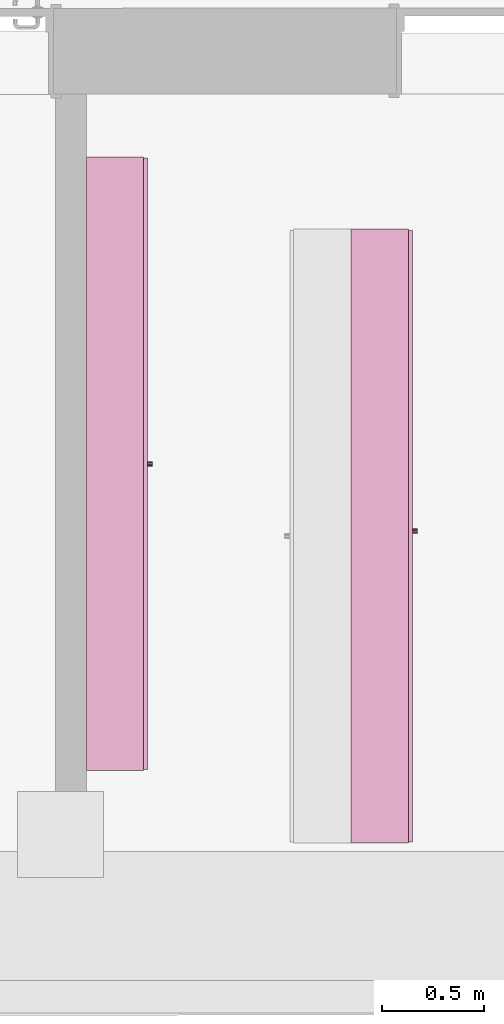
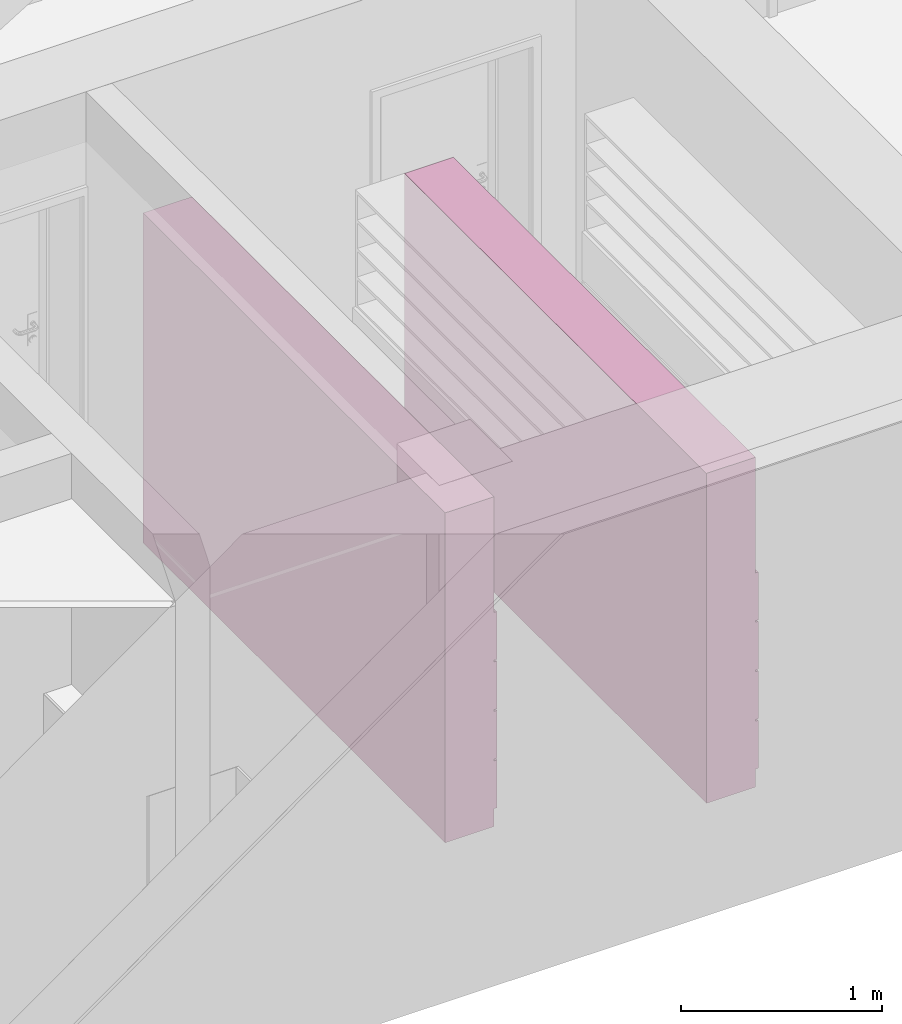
# One storey, part 100 of 127: 2 furnishings.
"""IFC2X3 building model written with IfcOpenShell, lengths in millimetres."""

import ifcopenshell
import ifcopenshell.guid

model = None  # the IFC model being written
_history = None  # IfcOwnerHistory: only IFC2X3 demands one
_inside = {}  # id of a spatial element -> (the spatial element, [elements in it])
_under = {}  # id of a project, library or spatial element -> (it, [spatial elements below it])
_declared = {}  # id of a project -> (the project, [libraries it declares])
_typed = {}  # id of a type object -> (the type object, [elements of that type])
_made_of = {}  # id of a material, layer set ... -> (it, [elements and type objects made of it])


def new_model(schema):
    """Start an empty IFC model of exactly this schema.

    Asked for "IFC4X3", IfcOpenShell would pick the latest addendum, in which some entities
    have other attributes; the version numbers below select the first issue.
    IFC2X3 requires an IfcOwnerHistory on every rooted entity: one is made here for all.
    """
    global model, _history
    if schema == "IFC4X3":
        model = ifcopenshell.file(schema_version=(4, 3, 0, 0))
    else:
        model = ifcopenshell.file(schema=schema)
    _inside.clear()
    _under.clear()
    _declared.clear()
    _typed.clear()
    _made_of.clear()
    _history = None
    if model.schema == "IFC2X3":
        org = make("IfcOrganization", Name="unknown")
        user = make(
            "IfcPersonAndOrganization",
            ThePerson=make("IfcPerson", FamilyName="unknown"),
            TheOrganization=org,
        )
        app = make(
            "IfcApplication",
            ApplicationDeveloper=org,
            Version="unknown",
            ApplicationFullName="unknown",
            ApplicationIdentifier="unknown",
        )
        _history = make(
            "IfcOwnerHistory",
            OwningUser=user,
            OwningApplication=app,
            ChangeAction="ADDED",
            CreationDate=0,
        )
    return model


def make(cls, **values):
    """One entity of the class cls with the attributes given. An attribute that is None is left unset."""
    return model.create_entity(
        cls, **{name: value for name, value in values.items() if value is not None}
    )


def entity(cls, *values):
    """Any entity or typed value of the class cls, its attributes in the order of the schema. None: left unset."""
    e = model.create_entity(cls)
    for i, value in enumerate(values):
        if value is not None:
            e[i] = value
    return e


def rooted(cls, **values):
    """An entity with a GlobalId (a new one), such as an element, a storey or a relation."""
    return make(cls, GlobalId=ifcopenshell.guid.new(), OwnerHistory=_history, **values)


def si_unit(unit_type, name, prefix=None):
    """IfcSIUnit, for example si_unit("LENGTHUNIT", "METRE", prefix="MILLI")."""
    return make("IfcSIUnit", UnitType=unit_type, Prefix=prefix, Name=name)


def converted_unit(unit_type, name, factor, base, dimensions=None, offset=None):
    """IfcConversionBasedUnit, such as the inch: factor (a typed value) times the base unit."""
    return make(
        "IfcConversionBasedUnit"
        if offset is None
        else "IfcConversionBasedUnitWithOffset",
        ConversionOffset=offset,
        Dimensions=None
        if dimensions is None
        else entity("IfcDimensionalExponents", *dimensions),
        UnitType=unit_type,
        Name=name,
        ConversionFactor=make(
            "IfcMeasureWithUnit", ValueComponent=factor, UnitComponent=base
        ),
    )


def derived_unit(unit_type, elements):
    """IfcDerivedUnit: a product of units, each with its exponent."""
    return make(
        "IfcDerivedUnit",
        Elements=[
            make("IfcDerivedUnitElement", Unit=unit, Exponent=power)
            for unit, power in elements
        ],
        UnitType=unit_type,
    )


def money_unit(currency):
    """IfcMonetaryUnit."""
    return make("IfcMonetaryUnit", Currency=currency)


def assignment(units):
    """IfcUnitAssignment: the units of a project."""
    return None if units is None else make("IfcUnitAssignment", Units=units)


def point(xyz):
    """IfcCartesianPoint."""
    return None if xyz is None else make("IfcCartesianPoint", Coordinates=xyz)


def direction(xyz):
    """IfcDirection."""
    return None if xyz is None else make("IfcDirection", DirectionRatios=xyz)


def frame(location, z_axis=None, x_axis=None):
    """IfcAxis2Placement3D, a coordinate frame: its origin and axes. An axis left out is left unset."""
    return make(
        "IfcAxis2Placement3D",
        Location=point(location),
        Axis=direction(z_axis),
        RefDirection=direction(x_axis),
    )


def origin_with_axes():
    """The frame at (0, 0, 0) with the z axis (0, 0, 1) and the x axis (1, 0, 0) written out."""
    return frame((0.0, 0.0, 0.0), z_axis=(0.0, 0.0, 1.0), x_axis=(1.0, 0.0, 0.0))


def place(relative_to, where):
    """IfcLocalPlacement: puts the frame where relative to a parent placement (None: the world)."""
    return make(
        "IfcLocalPlacement", PlacementRelTo=relative_to, RelativePlacement=where
    )


def context(
    kind, dimensions, precision=None, world=None, true_north=None, identifier=None
):
    """IfcGeometricRepresentationContext, for example the 3D "Model" context."""
    return make(
        "IfcGeometricRepresentationContext",
        ContextIdentifier=identifier,
        ContextType=kind,
        CoordinateSpaceDimension=dimensions,
        Precision=precision,
        WorldCoordinateSystem=world,
        TrueNorth=true_north,
    )


def subcontext(parent, identifier, kind, view, scale=None):
    """IfcGeometricRepresentationSubContext, for example "Body" below "Model"."""
    return make(
        "IfcGeometricRepresentationSubContext",
        ContextIdentifier=identifier,
        ContextType=kind,
        ParentContext=parent,
        TargetScale=scale,
        TargetView=view,
    )


def project(units=None, contexts=None):
    """IfcProject with its units and contexts."""
    return rooted(
        "IfcProject",
        Name="project",
        RepresentationContexts=contexts,
        UnitsInContext=assignment(units),
    )


def spatial(cls, under=None, at=None, **own):
    """A site, building, storey or space (cls), placed at a placement, below another one or the project."""
    s = rooted(cls, ObjectPlacement=at, **own)
    if under is not None:
        _under.setdefault(under.id(), (under, []))[1].append(s)
    return s


def faces_of(points, faces, orient=None, outer=None):
    """IfcFace entities. A face is a list of loops; a loop is a list of indices into points, from 0.

    orient and outer hold one flag for each loop. By default every Orientation is true, the
    first loop of a face is its IfcFaceOuterBound and the others are IfcFaceBound.
    """
    made = []
    for i, loops in enumerate(faces):
        bounds = []
        for j, loop in enumerate(loops):
            is_outer = j == 0 if outer is None else outer[i][j]
            bounds.append(
                make(
                    "IfcFaceOuterBound" if is_outer else "IfcFaceBound",
                    Bound=make("IfcPolyLoop", Polygon=[points[k] for k in loop]),
                    Orientation=True if orient is None else orient[i][j],
                )
            )
        made.append(make("IfcFace", Bounds=bounds))
    return made


def faceted_brep(points, faces, orient=None, outer=None, voids=None):
    """IfcFacetedBrep: a solid bounded by flat faces; with voids (closed shells), ...WithVoids."""
    shared = [point(p) for p in points]
    hull = make("IfcClosedShell", CfsFaces=faces_of(shared, faces, orient, outer))
    if voids is None:
        return make("IfcFacetedBrep", Outer=hull)
    return make(
        "IfcFacetedBrepWithVoids",
        Outer=hull,
        Voids=[
            make(cls, CfsFaces=faces_of(shared, fs, o, b)) for cls, fs, o, b in voids
        ],
    )


def shape(context_of_items, identifier, shape_type, items):
    """IfcShapeRepresentation: the items that make up one representation, for example the "Body"."""
    return make(
        "IfcShapeRepresentation",
        ContextOfItems=context_of_items,
        RepresentationIdentifier=identifier,
        RepresentationType=shape_type,
        Items=items,
    )


def made_of(thing, what):
    """Note that an element or type object is made of a material, layer set ...; save() writes the relation."""
    if what is not None:
        _made_of.setdefault(what.id(), (what, []))[1].append(thing)
    return thing


def type_object(cls, material=None, **own):
    """A type object (cls), such as IfcWallType, which elements share."""
    return made_of(rooted(cls, **own), material)


def element(
    cls,
    number,
    at=None,
    inside=None,
    cuts=None,
    type_object=None,
    material=None,
    context=None,
    identifier="Body",
    shape_type=None,
    held_by="IfcProductDefinitionShape",
    body=None,
    shapes=None,
    **own,
):
    """One element of the class cls, such as IfcWall. Its Tag is "e" and its number.

    at: its placement. inside: the storey or other place that contains it. cuts: it is an
    opening in that element (IfcRelVoidsElement). A single representation is given by context,
    identifier, shape_type and body (its items); several are given by shapes. held_by: the class
    of the entity that holds the representations. save() writes the other relations.
    """
    e = rooted(cls, Tag="e%d" % number, ObjectPlacement=at, **own)
    if body is not None:
        shapes = [shape(context, identifier, shape_type, body)]
    if shapes is not None:
        e.Representation = make(held_by, Representations=shapes)
    if inside is not None:
        _inside.setdefault(inside.id(), (inside, []))[1].append(e)
    if cuts is not None:
        rooted(
            "IfcRelVoidsElement", RelatingBuildingElement=cuts, RelatedOpeningElement=e
        )
    if type_object is not None:
        _typed.setdefault(type_object.id(), (type_object, []))[1].append(e)
    return made_of(e, material)


def aggregate(whole, parts):
    """IfcRelAggregates: a whole, such as a stair, and the parts it consists of."""
    return rooted("IfcRelAggregates", RelatingObject=whole, RelatedObjects=parts)


def save(model, path):
    """Write the relations noted so far, then the file.

    IfcRelAggregates (storeys below a building ...), IfcRelContainedInSpatialStructure (elements
    in a storey), IfcRelDefinesByType, IfcRelAssociatesMaterial and IfcRelDeclares: one each for
    every whole, place, type object, material and project.
    """
    for whole, parts in _under.values():
        aggregate(whole, parts)
    for where, things in _inside.values():
        rooted(
            "IfcRelContainedInSpatialStructure",
            RelatedElements=things,
            RelatingStructure=where,
        )
    for kind, things in _typed.values():
        rooted("IfcRelDefinesByType", RelatedObjects=things, RelatingType=kind)
    for what, things in _made_of.values():
        rooted("IfcRelAssociatesMaterial", RelatedObjects=things, RelatingMaterial=what)
    for by, libraries in _declared.values():
        rooted("IfcRelDeclares", RelatingContext=by, RelatedDefinitions=libraries)
    model.write(path)


model = new_model("IFC2X3")

# Units and contexts
model_context = context("Model", 3, precision=1e-05, world=origin_with_axes(), true_north=direction((0.0, 1.0)))
body_context = subcontext(model_context, "Body", "Model", "MODEL_VIEW")
ifc_project = project(units=[si_unit("LENGTHUNIT", "METRE", prefix="MILLI"), si_unit("AREAUNIT", "SQUARE_METRE"), si_unit("VOLUMEUNIT", "CUBIC_METRE"), converted_unit("PLANEANGLEUNIT", "DEGREE", entity("IfcPlaneAngleMeasure", 0.0174532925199), si_unit("PLANEANGLEUNIT", "RADIAN"), dimensions=[0, 0, 0, 0, 0, 0, 0]), si_unit("SOLIDANGLEUNIT", "STERADIAN"), money_unit("EUR"), converted_unit("TIMEUNIT", "Year", entity("IfcTimeMeasure", 31556926.0), si_unit("TIMEUNIT", "SECOND"), dimensions=[0, 0, 1, 0, 0, 0, 0]), si_unit("MASSUNIT", "GRAM", prefix="KILO"), si_unit("THERMODYNAMICTEMPERATUREUNIT", "DEGREE_CELSIUS"), si_unit("LUMINOUSINTENSITYUNIT", "LUMEN"), si_unit("ENERGYUNIT", "JOULE", prefix="MEGA"), derived_unit("THERMALCONDUCTANCEUNIT", [(si_unit("POWERUNIT", "WATT"), 1), (si_unit("LENGTHUNIT", "METRE"), -1), (si_unit("THERMODYNAMICTEMPERATUREUNIT", "KELVIN"), -1)]), derived_unit("SPECIFICHEATCAPACITYUNIT", [(si_unit("ENERGYUNIT", "JOULE"), 1), (si_unit("MASSUNIT", "GRAM", prefix="KILO"), -1), (si_unit("THERMODYNAMICTEMPERATUREUNIT", "KELVIN"), -1)]), derived_unit("MASSDENSITYUNIT", [(si_unit("MASSUNIT", "GRAM", prefix="KILO"), 1), (si_unit("VOLUMEUNIT", "CUBIC_METRE"), -1)])], contexts=[model_context])

# Site, building, storey
site_placement = place(None, origin_with_axes())
site = spatial("IfcSite", under=ifc_project, at=site_placement, Name="Site", CompositionType="ELEMENT")
building_placement = place(site_placement, origin_with_axes())
building = spatial("IfcBuilding", under=site, at=building_placement, Name="Building", CompositionType="ELEMENT")
storey_placement = place(building_placement, origin_with_axes())
storey = spatial("IfcBuildingStorey", under=building, at=storey_placement, Name="1 KORRUS", CompositionType="ELEMENT", Elevation=0.0)

# Furnishings
furnishing_element_type_1 = type_object("IfcFurnishingElementType", Name="Model Element 26")
furnishing_1_placement = place(storey_placement, frame((29665.5369183, 37930.7778883, 0.0), z_axis=(0.0, 0.0, 1.0), x_axis=(0.0, 1.0, 0.0)))
element("IfcFurnishingElement", 1, at=furnishing_1_placement, inside=storey, type_object=furnishing_element_type_1, Name="FU - 003", context=body_context, shape_type="Brep", body=[
    faceted_brep([(-3000.23609579, 19.0, 0.0), (-3000.23609579, 300.0, 0.0), (0.0, 300.0, 0.0), (0.0, 19.0, 0.0), (-3000.23609579, 19.0, 100.0), (-3000.23609579, 300.0, 100.0), (0.0, 300.0, 100.0), (0.0, 19.0, 100.0)], [[[0, 1, 2, 3]], [[0, 4, 5, 1]], [[1, 5, 6, 2]], [[2, 6, 7, 3]], [[3, 7, 4, 0]], [[7, 6, 5, 4]]]),
    faceted_brep([(-19.0, 300.0, 119.0), (-19.0, 300.0, 1981.0), (-19.0, 281.0, 1981.0), (-19.0, 281.0, 119.0), (-2981.23609579, 300.0, 119.0), (-2981.23609579, 300.0, 1981.0), (-2981.23609579, 281.0, 1981.0), (-2981.23609579, 281.0, 119.0)], [[[0, 1, 2, 3]], [[4, 5, 1, 0]], [[1, 5, 6, 2]], [[3, 2, 6, 7]], [[0, 3, 7, 4]], [[7, 6, 5, 4]]]),
    faceted_brep([(-3000.23609579, 19.0, 100.0), (-3000.23609579, 300.0, 100.0), (-2981.23609579, 300.0, 100.0), (-2981.23609579, 19.0, 100.0), (-3000.23609579, 19.0, 2000.0), (-3000.23609579, 300.0, 2000.0), (-2981.23609579, 300.0, 2000.0), (-2981.23609579, 19.0, 2000.0)], [[[0, 1, 2, 3]], [[0, 4, 5, 1]], [[1, 5, 6, 2]], [[2, 6, 7, 3]], [[3, 7, 4, 0]], [[7, 6, 5, 4]]]),
    faceted_brep([(-19.0, 19.0, 100.0), (-19.0, 300.0, 100.0), (0.0, 300.0, 100.0), (0.0, 19.0, 100.0), (-19.0, 19.0, 2000.0), (-19.0, 300.0, 2000.0), (0.0, 300.0, 2000.0), (0.0, 19.0, 2000.0)], [[[0, 1, 2, 3]], [[0, 4, 5, 1]], [[1, 5, 6, 2]], [[2, 6, 7, 3]], [[3, 7, 4, 0]], [[7, 6, 5, 4]]]),
    faceted_brep([(-2981.23609579, 19.0, 100.0), (-2981.23609579, 300.0, 100.0), (-19.0, 300.0, 100.0), (-19.0, 19.0, 100.0), (-2981.23609579, 19.0, 119.0), (-2981.23609579, 300.0, 119.0), (-19.0, 300.0, 119.0), (-19.0, 19.0, 119.0)], [[[0, 1, 2, 3]], [[0, 4, 5, 1]], [[1, 5, 6, 2]], [[2, 6, 7, 3]], [[3, 7, 4, 0]], [[7, 6, 5, 4]]]),
    faceted_brep([(-2981.23609579, 19.0, 1981.0), (-2981.23609579, 300.0, 1981.0), (-19.0, 300.0, 1981.0), (-19.0, 19.0, 1981.0), (-2981.23609579, 19.0, 2000.0), (-2981.23609579, 300.0, 2000.0), (-19.0, 300.0, 2000.0), (-19.0, 19.0, 2000.0)], [[[0, 1, 2, 3]], [[0, 4, 5, 1]], [[1, 5, 6, 2]], [[2, 6, 7, 3]], [[3, 7, 4, 0]], [[7, 6, 5, 4]]]),
    faceted_brep([(-5.0, 19.0, 105.0), (-5.0, 0.0, 105.0), (-2995.23609579, 0.0, 105.0), (-2995.23609579, 19.0, 105.0), (-5.0, 19.0, 395.0), (-5.0, 0.0, 395.0), (-2995.23609579, 0.0, 395.0), (-2995.23609579, 19.0, 395.0)], [[[0, 1, 2, 3]], [[4, 5, 1, 0]], [[1, 5, 6, 2]], [[3, 2, 6, 7]], [[0, 3, 7, 4]], [[7, 6, 5, 4]]]),
    faceted_brep([(-1486.51035274, 0.0, 244.0), (-1488.11804789, 0.0, 250.0), (-1486.51035274, 0.0, 256.0), (-1482.11804789, 0.0, 260.392304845), (-1476.11804789, 0.0, 262.0), (-1470.11804789, 0.0, 260.392304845), (-1465.72574305, 0.0, 256.0), (-1464.11804789, 0.0, 250.0), (-1465.72574305, 0.0, 244.0), (-1470.11804789, 0.0, 239.607695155), (-1476.11804789, 0.0, 238.0), (-1482.11804789, 0.0, 239.607695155), (-1486.51035274, -25.0, 244.0), (-1488.11804789, -25.0, 250.0), (-1486.51035274, -25.0, 256.0), (-1482.11804789, -25.0, 260.392304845), (-1476.11804789, -25.0, 262.0), (-1470.11804789, -25.0, 260.392304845), (-1465.72574305, -25.0, 256.0), (-1464.11804789, -25.0, 250.0), (-1465.72574305, -25.0, 244.0), (-1470.11804789, -25.0, 239.607695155), (-1476.11804789, -25.0, 238.0), (-1482.11804789, -25.0, 239.607695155)], [[[0, 1, 2, 3, 4, 5, 6, 7, 8, 9, 10, 11]], [[0, 12, 13, 1]], [[1, 13, 14, 2]], [[2, 14, 15, 3]], [[3, 15, 16, 4]], [[4, 16, 17, 5]], [[5, 17, 18, 6]], [[6, 18, 19, 7]], [[7, 19, 20, 8]], [[8, 20, 21, 9]], [[9, 21, 22, 10]], [[10, 22, 23, 11]], [[11, 23, 12, 0]], [[12, 23, 22, 21, 20, 19, 18, 17, 16, 15, 14, 13]]]),
    faceted_brep([(-5.0, 19.0, 405.0), (-5.0, 0.0, 405.0), (-2995.23609579, 0.0, 405.0), (-2995.23609579, 19.0, 405.0), (-5.0, 19.0, 695.0), (-5.0, 0.0, 695.0), (-2995.23609579, 0.0, 695.0), (-2995.23609579, 19.0, 695.0)], [[[0, 1, 2, 3]], [[4, 5, 1, 0]], [[1, 5, 6, 2]], [[3, 2, 6, 7]], [[0, 3, 7, 4]], [[7, 6, 5, 4]]]),
    faceted_brep([(-1486.51035274, 0.0, 544.0), (-1488.11804789, 0.0, 550.0), (-1486.51035274, 0.0, 556.0), (-1482.11804789, 0.0, 560.392304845), (-1476.11804789, 0.0, 562.0), (-1470.11804789, 0.0, 560.392304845), (-1465.72574305, 0.0, 556.0), (-1464.11804789, 0.0, 550.0), (-1465.72574305, 0.0, 544.0), (-1470.11804789, 0.0, 539.607695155), (-1476.11804789, 0.0, 538.0), (-1482.11804789, 0.0, 539.607695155), (-1486.51035274, -25.0, 544.0), (-1488.11804789, -25.0, 550.0), (-1486.51035274, -25.0, 556.0), (-1482.11804789, -25.0, 560.392304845), (-1476.11804789, -25.0, 562.0), (-1470.11804789, -25.0, 560.392304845), (-1465.72574305, -25.0, 556.0), (-1464.11804789, -25.0, 550.0), (-1465.72574305, -25.0, 544.0), (-1470.11804789, -25.0, 539.607695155), (-1476.11804789, -25.0, 538.0), (-1482.11804789, -25.0, 539.607695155)], [[[0, 1, 2, 3, 4, 5, 6, 7, 8, 9, 10, 11]], [[0, 12, 13, 1]], [[1, 13, 14, 2]], [[2, 14, 15, 3]], [[3, 15, 16, 4]], [[4, 16, 17, 5]], [[5, 17, 18, 6]], [[6, 18, 19, 7]], [[7, 19, 20, 8]], [[8, 20, 21, 9]], [[9, 21, 22, 10]], [[10, 22, 23, 11]], [[11, 23, 12, 0]], [[12, 23, 22, 21, 20, 19, 18, 17, 16, 15, 14, 13]]]),
    faceted_brep([(-5.0, 19.0, 705.0), (-5.0, 0.0, 705.0), (-2995.23609579, 0.0, 705.0), (-2995.23609579, 19.0, 705.0), (-5.0, 19.0, 995.0), (-5.0, 0.0, 995.0), (-2995.23609579, 0.0, 995.0), (-2995.23609579, 19.0, 995.0)], [[[0, 1, 2, 3]], [[4, 5, 1, 0]], [[1, 5, 6, 2]], [[3, 2, 6, 7]], [[0, 3, 7, 4]], [[7, 6, 5, 4]]]),
    faceted_brep([(-1486.51035274, 0.0, 844.0), (-1488.11804789, 0.0, 850.0), (-1486.51035274, 0.0, 856.0), (-1482.11804789, 0.0, 860.392304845), (-1476.11804789, 0.0, 862.0), (-1470.11804789, 0.0, 860.392304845), (-1465.72574305, 0.0, 856.0), (-1464.11804789, 0.0, 850.0), (-1465.72574305, 0.0, 844.0), (-1470.11804789, 0.0, 839.607695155), (-1476.11804789, 0.0, 838.0), (-1482.11804789, 0.0, 839.607695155), (-1486.51035274, -25.0, 844.0), (-1488.11804789, -25.0, 850.0), (-1486.51035274, -25.0, 856.0), (-1482.11804789, -25.0, 860.392304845), (-1476.11804789, -25.0, 862.0), (-1470.11804789, -25.0, 860.392304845), (-1465.72574305, -25.0, 856.0), (-1464.11804789, -25.0, 850.0), (-1465.72574305, -25.0, 844.0), (-1470.11804789, -25.0, 839.607695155), (-1476.11804789, -25.0, 838.0), (-1482.11804789, -25.0, 839.607695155)], [[[0, 1, 2, 3, 4, 5, 6, 7, 8, 9, 10, 11]], [[0, 12, 13, 1]], [[1, 13, 14, 2]], [[2, 14, 15, 3]], [[3, 15, 16, 4]], [[4, 16, 17, 5]], [[5, 17, 18, 6]], [[6, 18, 19, 7]], [[7, 19, 20, 8]], [[8, 20, 21, 9]], [[9, 21, 22, 10]], [[10, 22, 23, 11]], [[11, 23, 12, 0]], [[12, 23, 22, 21, 20, 19, 18, 17, 16, 15, 14, 13]]]),
    faceted_brep([(-5.0, 19.0, 1005.0), (-5.0, 0.0, 1005.0), (-2995.23609579, 0.0, 1005.0), (-2995.23609579, 19.0, 1005.0), (-5.0, 19.0, 1295.0), (-5.0, 0.0, 1295.0), (-2995.23609579, 0.0, 1295.0), (-2995.23609579, 19.0, 1295.0)], [[[0, 1, 2, 3]], [[4, 5, 1, 0]], [[1, 5, 6, 2]], [[3, 2, 6, 7]], [[0, 3, 7, 4]], [[7, 6, 5, 4]]]),
    faceted_brep([(-1486.51035274, 0.0, 1144.0), (-1488.11804789, 0.0, 1150.0), (-1486.51035274, 0.0, 1156.0), (-1482.11804789, 0.0, 1160.39230485), (-1476.11804789, 0.0, 1162.0), (-1470.11804789, 0.0, 1160.39230485), (-1465.72574305, 0.0, 1156.0), (-1464.11804789, 0.0, 1150.0), (-1465.72574305, 0.0, 1144.0), (-1470.11804789, 0.0, 1139.60769515), (-1476.11804789, 0.0, 1138.0), (-1482.11804789, 0.0, 1139.60769515), (-1486.51035274, -25.0, 1144.0), (-1488.11804789, -25.0, 1150.0), (-1486.51035274, -25.0, 1156.0), (-1482.11804789, -25.0, 1160.39230485), (-1476.11804789, -25.0, 1162.0), (-1470.11804789, -25.0, 1160.39230485), (-1465.72574305, -25.0, 1156.0), (-1464.11804789, -25.0, 1150.0), (-1465.72574305, -25.0, 1144.0), (-1470.11804789, -25.0, 1139.60769515), (-1476.11804789, -25.0, 1138.0), (-1482.11804789, -25.0, 1139.60769515)], [[[0, 1, 2, 3, 4, 5, 6, 7, 8, 9, 10, 11]], [[0, 12, 13, 1]], [[1, 13, 14, 2]], [[2, 14, 15, 3]], [[3, 15, 16, 4]], [[4, 16, 17, 5]], [[5, 17, 18, 6]], [[6, 18, 19, 7]], [[7, 19, 20, 8]], [[8, 20, 21, 9]], [[9, 21, 22, 10]], [[10, 22, 23, 11]], [[11, 23, 12, 0]], [[12, 23, 22, 21, 20, 19, 18, 17, 16, 15, 14, 13]]]),
    faceted_brep([(-19.0, 19.0, 390.5), (-19.0, 19.0, 409.5), (-2981.23609579, 19.0, 409.5), (-2981.23609579, 19.0, 390.5), (-19.0, 281.0, 390.5), (-19.0, 281.0, 409.5), (-2981.23609579, 281.0, 409.5), (-2981.23609579, 281.0, 390.5)], [[[0, 1, 2, 3]], [[4, 5, 1, 0]], [[1, 5, 6, 2]], [[3, 2, 6, 7]], [[0, 3, 7, 4]], [[7, 6, 5, 4]]]),
    faceted_brep([(-19.0, 19.0, 690.5), (-19.0, 19.0, 709.5), (-2981.23609579, 19.0, 709.5), (-2981.23609579, 19.0, 690.5), (-19.0, 281.0, 690.5), (-19.0, 281.0, 709.5), (-2981.23609579, 281.0, 709.5), (-2981.23609579, 281.0, 690.5)], [[[0, 1, 2, 3]], [[4, 5, 1, 0]], [[1, 5, 6, 2]], [[3, 2, 6, 7]], [[0, 3, 7, 4]], [[7, 6, 5, 4]]]),
    faceted_brep([(-19.0, 19.0, 990.5), (-19.0, 19.0, 1009.5), (-2981.23609579, 19.0, 1009.5), (-2981.23609579, 19.0, 990.5), (-19.0, 281.0, 990.5), (-19.0, 281.0, 1009.5), (-2981.23609579, 281.0, 1009.5), (-2981.23609579, 281.0, 990.5)], [[[0, 1, 2, 3]], [[4, 5, 1, 0]], [[1, 5, 6, 2]], [[3, 2, 6, 7]], [[0, 3, 7, 4]], [[7, 6, 5, 4]]]),
    faceted_brep([(-19.0, 19.0, 1290.5), (-19.0, 19.0, 1309.5), (-2981.23609579, 19.0, 1309.5), (-2981.23609579, 19.0, 1290.5), (-19.0, 281.0, 1290.5), (-19.0, 281.0, 1309.5), (-2981.23609579, 281.0, 1309.5), (-2981.23609579, 281.0, 1290.5)], [[[0, 1, 2, 3]], [[4, 5, 1, 0]], [[1, 5, 6, 2]], [[3, 2, 6, 7]], [[0, 3, 7, 4]], [[7, 6, 5, 4]]]),
    faceted_brep([(-2981.23609579, 19.0, 1463.125), (-2981.23609579, 281.0, 1463.125), (-19.0, 281.0, 1463.125), (-19.0, 19.0, 1463.125), (-2981.23609579, 19.0, 1482.125), (-2981.23609579, 281.0, 1482.125), (-19.0, 281.0, 1482.125), (-19.0, 19.0, 1482.125)], [[[0, 1, 2, 3]], [[0, 4, 5, 1]], [[1, 5, 6, 2]], [[2, 6, 7, 3]], [[3, 7, 4, 0]], [[7, 6, 5, 4]]]),
    faceted_brep([(-2981.23609579, 19.0, 1635.75), (-2981.23609579, 281.0, 1635.75), (-19.0, 281.0, 1635.75), (-19.0, 19.0, 1635.75), (-2981.23609579, 19.0, 1654.75), (-2981.23609579, 281.0, 1654.75), (-19.0, 281.0, 1654.75), (-19.0, 19.0, 1654.75)], [[[0, 1, 2, 3]], [[0, 4, 5, 1]], [[1, 5, 6, 2]], [[2, 6, 7, 3]], [[3, 7, 4, 0]], [[7, 6, 5, 4]]]),
    faceted_brep([(-2981.23609579, 19.0, 1808.375), (-2981.23609579, 281.0, 1808.375), (-19.0, 281.0, 1808.375), (-19.0, 19.0, 1808.375), (-2981.23609579, 19.0, 1827.375), (-2981.23609579, 281.0, 1827.375), (-19.0, 281.0, 1827.375), (-19.0, 19.0, 1827.375)], [[[0, 1, 2, 3]], [[0, 4, 5, 1]], [[1, 5, 6, 2]], [[2, 6, 7, 3]], [[3, 7, 4, 0]], [[7, 6, 5, 4]]]),
])
furnishing_element_type_2 = type_object("IfcFurnishingElementType", Name="Model Element 24")
furnishing_2_placement = place(storey_placement, frame((28370.4892316, 38283.3427334, 0.0), z_axis=(0.0, 0.0, 1.0), x_axis=(0.0, 1.0, 0.0)))
element("IfcFurnishingElement", 2, at=furnishing_2_placement, inside=storey, type_object=furnishing_element_type_2, Name="FU - 003", context=body_context, shape_type="Brep", body=[
    faceted_brep([(-3000.0, 19.0, 0.0), (-3000.0, 300.0, 0.0), (0.0, 300.0, 0.0), (0.0, 19.0, 0.0), (-3000.0, 19.0, 100.0), (-3000.0, 300.0, 100.0), (0.0, 300.0, 100.0), (0.0, 19.0, 100.0)], [[[0, 1, 2, 3]], [[0, 4, 5, 1]], [[1, 5, 6, 2]], [[2, 6, 7, 3]], [[3, 7, 4, 0]], [[7, 6, 5, 4]]]),
    faceted_brep([(-19.0, 300.0, 119.0), (-19.0, 300.0, 1981.0), (-19.0, 281.0, 1981.0), (-19.0, 281.0, 119.0), (-2981.0, 300.0, 119.0), (-2981.0, 300.0, 1981.0), (-2981.0, 281.0, 1981.0), (-2981.0, 281.0, 119.0)], [[[0, 1, 2, 3]], [[4, 5, 1, 0]], [[1, 5, 6, 2]], [[3, 2, 6, 7]], [[0, 3, 7, 4]], [[7, 6, 5, 4]]]),
    faceted_brep([(-3000.0, 19.0, 100.0), (-3000.0, 300.0, 100.0), (-2981.0, 300.0, 100.0), (-2981.0, 19.0, 100.0), (-3000.0, 19.0, 2000.0), (-3000.0, 300.0, 2000.0), (-2981.0, 300.0, 2000.0), (-2981.0, 19.0, 2000.0)], [[[0, 1, 2, 3]], [[0, 4, 5, 1]], [[1, 5, 6, 2]], [[2, 6, 7, 3]], [[3, 7, 4, 0]], [[7, 6, 5, 4]]]),
    faceted_brep([(-19.0, 19.0, 100.0), (-19.0, 300.0, 100.0), (0.0, 300.0, 100.0), (0.0, 19.0, 100.0), (-19.0, 19.0, 2000.0), (-19.0, 300.0, 2000.0), (0.0, 300.0, 2000.0), (0.0, 19.0, 2000.0)], [[[0, 1, 2, 3]], [[0, 4, 5, 1]], [[1, 5, 6, 2]], [[2, 6, 7, 3]], [[3, 7, 4, 0]], [[7, 6, 5, 4]]]),
    faceted_brep([(-2981.0, 19.0, 100.0), (-2981.0, 300.0, 100.0), (-19.0, 300.0, 100.0), (-19.0, 19.0, 100.0), (-2981.0, 19.0, 119.0), (-2981.0, 300.0, 119.0), (-19.0, 300.0, 119.0), (-19.0, 19.0, 119.0)], [[[0, 1, 2, 3]], [[0, 4, 5, 1]], [[1, 5, 6, 2]], [[2, 6, 7, 3]], [[3, 7, 4, 0]], [[7, 6, 5, 4]]]),
    faceted_brep([(-2981.0, 19.0, 1981.0), (-2981.0, 300.0, 1981.0), (-19.0, 300.0, 1981.0), (-19.0, 19.0, 1981.0), (-2981.0, 19.0, 2000.0), (-2981.0, 300.0, 2000.0), (-19.0, 300.0, 2000.0), (-19.0, 19.0, 2000.0)], [[[0, 1, 2, 3]], [[0, 4, 5, 1]], [[1, 5, 6, 2]], [[2, 6, 7, 3]], [[3, 7, 4, 0]], [[7, 6, 5, 4]]]),
    faceted_brep([(-5.0, 19.0, 105.0), (-5.0, 0.0, 105.0), (-2995.0, 0.0, 105.0), (-2995.0, 19.0, 105.0), (-5.0, 19.0, 395.0), (-5.0, 0.0, 395.0), (-2995.0, 0.0, 395.0), (-2995.0, 19.0, 395.0)], [[[0, 1, 2, 3]], [[4, 5, 1, 0]], [[1, 5, 6, 2]], [[3, 2, 6, 7]], [[0, 3, 7, 4]], [[7, 6, 5, 4]]]),
    faceted_brep([(-1510.39230485, 0.0, 244.0), (-1512.0, 0.0, 250.0), (-1510.39230485, 0.0, 256.0), (-1506.0, 0.0, 260.392304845), (-1500.0, 0.0, 262.0), (-1494.0, 0.0, 260.392304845), (-1489.60769515, 0.0, 256.0), (-1488.0, 0.0, 250.0), (-1489.60769515, 0.0, 244.0), (-1494.0, 0.0, 239.607695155), (-1500.0, 0.0, 238.0), (-1506.0, 0.0, 239.607695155), (-1510.39230485, -25.0, 244.0), (-1512.0, -25.0, 250.0), (-1510.39230485, -25.0, 256.0), (-1506.0, -25.0, 260.392304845), (-1500.0, -25.0, 262.0), (-1494.0, -25.0, 260.392304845), (-1489.60769515, -25.0, 256.0), (-1488.0, -25.0, 250.0), (-1489.60769515, -25.0, 244.0), (-1494.0, -25.0, 239.607695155), (-1500.0, -25.0, 238.0), (-1506.0, -25.0, 239.607695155)], [[[0, 1, 2, 3, 4, 5, 6, 7, 8, 9, 10, 11]], [[0, 12, 13, 1]], [[1, 13, 14, 2]], [[2, 14, 15, 3]], [[3, 15, 16, 4]], [[4, 16, 17, 5]], [[5, 17, 18, 6]], [[6, 18, 19, 7]], [[7, 19, 20, 8]], [[8, 20, 21, 9]], [[9, 21, 22, 10]], [[10, 22, 23, 11]], [[11, 23, 12, 0]], [[12, 23, 22, 21, 20, 19, 18, 17, 16, 15, 14, 13]]]),
    faceted_brep([(-5.0, 19.0, 405.0), (-5.0, 0.0, 405.0), (-2995.0, 0.0, 405.0), (-2995.0, 19.0, 405.0), (-5.0, 19.0, 695.0), (-5.0, 0.0, 695.0), (-2995.0, 0.0, 695.0), (-2995.0, 19.0, 695.0)], [[[0, 1, 2, 3]], [[4, 5, 1, 0]], [[1, 5, 6, 2]], [[3, 2, 6, 7]], [[0, 3, 7, 4]], [[7, 6, 5, 4]]]),
    faceted_brep([(-1510.39230485, 0.0, 544.0), (-1512.0, 0.0, 550.0), (-1510.39230485, 0.0, 556.0), (-1506.0, 0.0, 560.392304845), (-1500.0, 0.0, 562.0), (-1494.0, 0.0, 560.392304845), (-1489.60769515, 0.0, 556.0), (-1488.0, 0.0, 550.0), (-1489.60769515, 0.0, 544.0), (-1494.0, 0.0, 539.607695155), (-1500.0, 0.0, 538.0), (-1506.0, 0.0, 539.607695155), (-1510.39230485, -25.0, 544.0), (-1512.0, -25.0, 550.0), (-1510.39230485, -25.0, 556.0), (-1506.0, -25.0, 560.392304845), (-1500.0, -25.0, 562.0), (-1494.0, -25.0, 560.392304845), (-1489.60769515, -25.0, 556.0), (-1488.0, -25.0, 550.0), (-1489.60769515, -25.0, 544.0), (-1494.0, -25.0, 539.607695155), (-1500.0, -25.0, 538.0), (-1506.0, -25.0, 539.607695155)], [[[0, 1, 2, 3, 4, 5, 6, 7, 8, 9, 10, 11]], [[0, 12, 13, 1]], [[1, 13, 14, 2]], [[2, 14, 15, 3]], [[3, 15, 16, 4]], [[4, 16, 17, 5]], [[5, 17, 18, 6]], [[6, 18, 19, 7]], [[7, 19, 20, 8]], [[8, 20, 21, 9]], [[9, 21, 22, 10]], [[10, 22, 23, 11]], [[11, 23, 12, 0]], [[12, 23, 22, 21, 20, 19, 18, 17, 16, 15, 14, 13]]]),
    faceted_brep([(-5.0, 19.0, 705.0), (-5.0, 0.0, 705.0), (-2995.0, 0.0, 705.0), (-2995.0, 19.0, 705.0), (-5.0, 19.0, 995.0), (-5.0, 0.0, 995.0), (-2995.0, 0.0, 995.0), (-2995.0, 19.0, 995.0)], [[[0, 1, 2, 3]], [[4, 5, 1, 0]], [[1, 5, 6, 2]], [[3, 2, 6, 7]], [[0, 3, 7, 4]], [[7, 6, 5, 4]]]),
    faceted_brep([(-1510.39230485, 0.0, 844.0), (-1512.0, 0.0, 850.0), (-1510.39230485, 0.0, 856.0), (-1506.0, 0.0, 860.392304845), (-1500.0, 0.0, 862.0), (-1494.0, 0.0, 860.392304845), (-1489.60769515, 0.0, 856.0), (-1488.0, 0.0, 850.0), (-1489.60769515, 0.0, 844.0), (-1494.0, 0.0, 839.607695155), (-1500.0, 0.0, 838.0), (-1506.0, 0.0, 839.607695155), (-1510.39230485, -25.0, 844.0), (-1512.0, -25.0, 850.0), (-1510.39230485, -25.0, 856.0), (-1506.0, -25.0, 860.392304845), (-1500.0, -25.0, 862.0), (-1494.0, -25.0, 860.392304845), (-1489.60769515, -25.0, 856.0), (-1488.0, -25.0, 850.0), (-1489.60769515, -25.0, 844.0), (-1494.0, -25.0, 839.607695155), (-1500.0, -25.0, 838.0), (-1506.0, -25.0, 839.607695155)], [[[0, 1, 2, 3, 4, 5, 6, 7, 8, 9, 10, 11]], [[0, 12, 13, 1]], [[1, 13, 14, 2]], [[2, 14, 15, 3]], [[3, 15, 16, 4]], [[4, 16, 17, 5]], [[5, 17, 18, 6]], [[6, 18, 19, 7]], [[7, 19, 20, 8]], [[8, 20, 21, 9]], [[9, 21, 22, 10]], [[10, 22, 23, 11]], [[11, 23, 12, 0]], [[12, 23, 22, 21, 20, 19, 18, 17, 16, 15, 14, 13]]]),
    faceted_brep([(-5.0, 19.0, 1005.0), (-5.0, 0.0, 1005.0), (-2995.0, 0.0, 1005.0), (-2995.0, 19.0, 1005.0), (-5.0, 19.0, 1295.0), (-5.0, 0.0, 1295.0), (-2995.0, 0.0, 1295.0), (-2995.0, 19.0, 1295.0)], [[[0, 1, 2, 3]], [[4, 5, 1, 0]], [[1, 5, 6, 2]], [[3, 2, 6, 7]], [[0, 3, 7, 4]], [[7, 6, 5, 4]]]),
    faceted_brep([(-1510.39230485, 0.0, 1144.0), (-1512.0, 0.0, 1150.0), (-1510.39230485, 0.0, 1156.0), (-1506.0, 0.0, 1160.39230485), (-1500.0, 0.0, 1162.0), (-1494.0, 0.0, 1160.39230485), (-1489.60769515, 0.0, 1156.0), (-1488.0, 0.0, 1150.0), (-1489.60769515, 0.0, 1144.0), (-1494.0, 0.0, 1139.60769515), (-1500.0, 0.0, 1138.0), (-1506.0, 0.0, 1139.60769515), (-1510.39230485, -25.0, 1144.0), (-1512.0, -25.0, 1150.0), (-1510.39230485, -25.0, 1156.0), (-1506.0, -25.0, 1160.39230485), (-1500.0, -25.0, 1162.0), (-1494.0, -25.0, 1160.39230485), (-1489.60769515, -25.0, 1156.0), (-1488.0, -25.0, 1150.0), (-1489.60769515, -25.0, 1144.0), (-1494.0, -25.0, 1139.60769515), (-1500.0, -25.0, 1138.0), (-1506.0, -25.0, 1139.60769515)], [[[0, 1, 2, 3, 4, 5, 6, 7, 8, 9, 10, 11]], [[0, 12, 13, 1]], [[1, 13, 14, 2]], [[2, 14, 15, 3]], [[3, 15, 16, 4]], [[4, 16, 17, 5]], [[5, 17, 18, 6]], [[6, 18, 19, 7]], [[7, 19, 20, 8]], [[8, 20, 21, 9]], [[9, 21, 22, 10]], [[10, 22, 23, 11]], [[11, 23, 12, 0]], [[12, 23, 22, 21, 20, 19, 18, 17, 16, 15, 14, 13]]]),
    faceted_brep([(-19.0, 19.0, 390.5), (-19.0, 19.0, 409.5), (-2981.0, 19.0, 409.5), (-2981.0, 19.0, 390.5), (-19.0, 281.0, 390.5), (-19.0, 281.0, 409.5), (-2981.0, 281.0, 409.5), (-2981.0, 281.0, 390.5)], [[[0, 1, 2, 3]], [[4, 5, 1, 0]], [[1, 5, 6, 2]], [[3, 2, 6, 7]], [[0, 3, 7, 4]], [[7, 6, 5, 4]]]),
    faceted_brep([(-19.0, 19.0, 690.5), (-19.0, 19.0, 709.5), (-2981.0, 19.0, 709.5), (-2981.0, 19.0, 690.5), (-19.0, 281.0, 690.5), (-19.0, 281.0, 709.5), (-2981.0, 281.0, 709.5), (-2981.0, 281.0, 690.5)], [[[0, 1, 2, 3]], [[4, 5, 1, 0]], [[1, 5, 6, 2]], [[3, 2, 6, 7]], [[0, 3, 7, 4]], [[7, 6, 5, 4]]]),
    faceted_brep([(-19.0, 19.0, 990.5), (-19.0, 19.0, 1009.5), (-2981.0, 19.0, 1009.5), (-2981.0, 19.0, 990.5), (-19.0, 281.0, 990.5), (-19.0, 281.0, 1009.5), (-2981.0, 281.0, 1009.5), (-2981.0, 281.0, 990.5)], [[[0, 1, 2, 3]], [[4, 5, 1, 0]], [[1, 5, 6, 2]], [[3, 2, 6, 7]], [[0, 3, 7, 4]], [[7, 6, 5, 4]]]),
    faceted_brep([(-19.0, 19.0, 1290.5), (-19.0, 19.0, 1309.5), (-2981.0, 19.0, 1309.5), (-2981.0, 19.0, 1290.5), (-19.0, 281.0, 1290.5), (-19.0, 281.0, 1309.5), (-2981.0, 281.0, 1309.5), (-2981.0, 281.0, 1290.5)], [[[0, 1, 2, 3]], [[4, 5, 1, 0]], [[1, 5, 6, 2]], [[3, 2, 6, 7]], [[0, 3, 7, 4]], [[7, 6, 5, 4]]]),
    faceted_brep([(-2981.0, 19.0, 1463.125), (-2981.0, 281.0, 1463.125), (-19.0, 281.0, 1463.125), (-19.0, 19.0, 1463.125), (-2981.0, 19.0, 1482.125), (-2981.0, 281.0, 1482.125), (-19.0, 281.0, 1482.125), (-19.0, 19.0, 1482.125)], [[[0, 1, 2, 3]], [[0, 4, 5, 1]], [[1, 5, 6, 2]], [[2, 6, 7, 3]], [[3, 7, 4, 0]], [[7, 6, 5, 4]]]),
    faceted_brep([(-2981.0, 19.0, 1635.75), (-2981.0, 281.0, 1635.75), (-19.0, 281.0, 1635.75), (-19.0, 19.0, 1635.75), (-2981.0, 19.0, 1654.75), (-2981.0, 281.0, 1654.75), (-19.0, 281.0, 1654.75), (-19.0, 19.0, 1654.75)], [[[0, 1, 2, 3]], [[0, 4, 5, 1]], [[1, 5, 6, 2]], [[2, 6, 7, 3]], [[3, 7, 4, 0]], [[7, 6, 5, 4]]]),
    faceted_brep([(-2981.0, 19.0, 1808.375), (-2981.0, 281.0, 1808.375), (-19.0, 281.0, 1808.375), (-19.0, 19.0, 1808.375), (-2981.0, 19.0, 1827.375), (-2981.0, 281.0, 1827.375), (-19.0, 281.0, 1827.375), (-19.0, 19.0, 1827.375)], [[[0, 1, 2, 3]], [[0, 4, 5, 1]], [[1, 5, 6, 2]], [[2, 6, 7, 3]], [[3, 7, 4, 0]], [[7, 6, 5, 4]]]),
])

save(model, "model.ifc")
